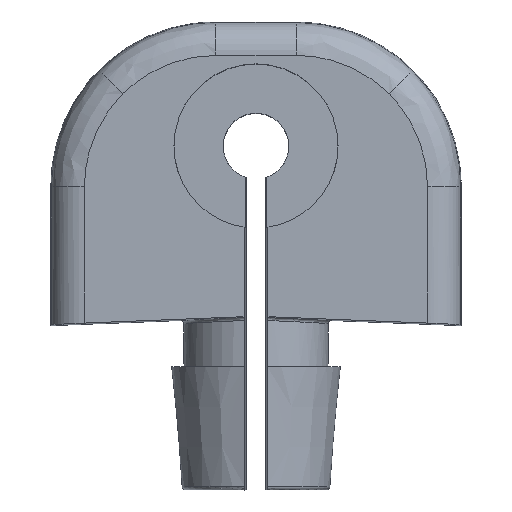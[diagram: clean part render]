
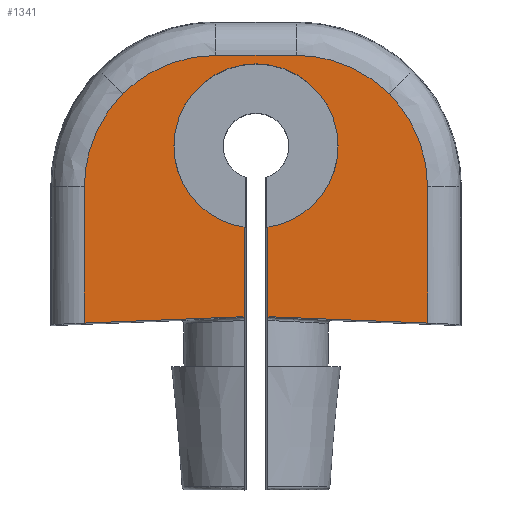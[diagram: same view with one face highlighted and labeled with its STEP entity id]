
A CAD part, top view. The second image highlights one B-rep face of the part: STEP entity #1341.
In plain terms, the highlighted planar face has unit normal (0, 0, 1).
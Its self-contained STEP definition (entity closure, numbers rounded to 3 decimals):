
#31 = ORIENTED_EDGE ( 'NONE', *, *, #212, .T. ) ;
#49 = CARTESIAN_POINT ( 'NONE',  ( 0., 1.685, 7.5 ) ) ;
#64 = CIRCLE ( 'NONE', #608, 5. ) ;
#83 = CARTESIAN_POINT ( 'NONE',  ( 0., 7.202, 7.5 ) ) ;
#97 = EDGE_CURVE ( 'NONE', #1897, #2026, #964, .T. ) ;
#100 = CARTESIAN_POINT ( 'NONE',  ( -4.602, 7.202, 7.5 ) ) ;
#103 = ORIENTED_EDGE ( 'NONE', *, *, #609, .T. ) ;
#108 = CARTESIAN_POINT ( 'NONE',  ( -6.589, 6.379, 7.5 ) ) ;
#132 = CARTESIAN_POINT ( 'NONE',  ( 10.452, 1.352, 7.5 ) ) ;
#136 = CARTESIAN_POINT ( 'NONE',  ( 0., 1.685, 7.5 ) ) ;
#142 = CARTESIAN_POINT ( 'NONE',  ( 10.452, -0.798, 7.5 ) ) ;
#205 = CARTESIAN_POINT ( 'NONE',  ( -9.629, 3.339, 7.5 ) ) ;
#212 = EDGE_CURVE ( 'NONE', #219, #802, #595, .T. ) ;
#219 = VERTEX_POINT ( 'NONE', #1514 ) ;
#269 = DIRECTION ( 'NONE',  ( 1., 0., 0. ) ) ;
#299 = CARTESIAN_POINT ( 'NONE',  ( -5., 1.685, 7.5 ) ) ;
#327 = CARTESIAN_POINT ( 'NONE',  ( -10.452, 0., 7.5 ) ) ;
#345 = DIRECTION ( 'NONE',  ( 0.999, -0.04, 0. ) ) ;
#363 = LINE ( 'NONE', #1107, #1491 ) ;
#387 = CARTESIAN_POINT ( 'NONE',  ( -2.452, 7.202, 7.5 ) ) ;
#393 = ORIENTED_EDGE ( 'NONE', *, *, #97, .T. ) ;
#408 = DIRECTION ( 'NONE',  ( 0., 0., 1. ) ) ;
#415 = CARTESIAN_POINT ( 'NONE',  ( 10.452, -0.798, 7.5 ) ) ;
#423 = VECTOR ( 'NONE', #345, 1000. ) ;
#463 = VERTEX_POINT ( 'NONE', #387 ) ;
#467 = DIRECTION ( 'NONE',  ( 0., 1., 0. ) ) ;
#475 = DIRECTION ( 'NONE',  ( 0., -1., 0. ) ) ;
#511 = ORIENTED_EDGE ( 'NONE', *, *, #737, .T. ) ;
#521 = CARTESIAN_POINT ( 'NONE',  ( -8.109, 4.859, 7.5 ) ) ;
#538 = VERTEX_POINT ( 'NONE', #596 ) ;
#560 = CARTESIAN_POINT ( 'NONE',  ( 0., 0., 7.5 ) ) ;
#568 = EDGE_LOOP ( 'NONE', ( #1749, #820, #1254, #1220, #1251, #723, #393, #1839, #31, #1795, #511, #103, #678, #1993 ) ) ;
#569 =( BOUNDED_CURVE ( )  B_SPLINE_CURVE ( 3, ( #142, #132, #2003, #1057 ),
 .UNSPECIFIED., .F., .F. ) 
 B_SPLINE_CURVE_WITH_KNOTS ( ( 4, 4 ),
 ( 5.498, 6.283 ),
 .UNSPECIFIED. ) 
 CURVE ( )  GEOMETRIC_REPRESENTATION_ITEM ( )  RATIONAL_B_SPLINE_CURVE ( ( 1., 0.949, 0.949, 1. ) ) 
 REPRESENTATION_ITEM ( '' )  );
#572 = CARTESIAN_POINT ( 'NONE',  ( 2.452, 7.202, 7.5 ) ) ;
#585 = CARTESIAN_POINT ( 'NONE',  ( 6.589, 6.379, 7.5 ) ) ;
#595 =( BOUNDED_CURVE ( )  B_SPLINE_CURVE ( 3, ( #1209, #585, #1835, #905 ),
 .UNSPECIFIED., .F., .F. ) 
 B_SPLINE_CURVE_WITH_KNOTS ( ( 4, 4 ),
 ( 0., 0.785 ),
 .UNSPECIFIED. ) 
 CURVE ( )  GEOMETRIC_REPRESENTATION_ITEM ( )  RATIONAL_B_SPLINE_CURVE ( ( 1., 0.949, 0.949, 1. ) ) 
 REPRESENTATION_ITEM ( '' )  );
#596 = CARTESIAN_POINT ( 'NONE',  ( -0.731, -3.262, 7.5 ) ) ;
#608 = AXIS2_PLACEMENT_3D ( 'NONE', #136, #1227, #1384 ) ;
#609 = EDGE_CURVE ( 'NONE', #1649, #725, #1289, .T. ) ;
#632 = CARTESIAN_POINT ( 'NONE',  ( 0.731, -8.714, 7.5 ) ) ;
#652 = AXIS2_PLACEMENT_3D ( 'NONE', #830, #408, #269 ) ;
#678 = ORIENTED_EDGE ( 'NONE', *, *, #1537, .T. ) ;
#691 = CARTESIAN_POINT ( 'NONE',  ( -0.731, -8.714, 7.5 ) ) ;
#692 = LINE ( 'NONE', #1044, #1829 ) ;
#703 = DIRECTION ( 'NONE',  ( 0., -1., 0. ) ) ;
#723 = ORIENTED_EDGE ( 'NONE', *, *, #1889, .T. ) ;
#725 = VERTEX_POINT ( 'NONE', #836 ) ;
#729 = CARTESIAN_POINT ( 'NONE',  ( -0.731, 0., 7.5 ) ) ;
#737 = EDGE_CURVE ( 'NONE', #463, #1649, #1682, .T. ) ;
#802 = VERTEX_POINT ( 'NONE', #572 ) ;
#816 = CARTESIAN_POINT ( 'NONE',  ( -0.347, -8.671, 7.5 ) ) ;
#820 = ORIENTED_EDGE ( 'NONE', *, *, #1711, .F. ) ;
#830 = CARTESIAN_POINT ( 'NONE',  ( 0., 1.685, 7.5 ) ) ;
#836 = CARTESIAN_POINT ( 'NONE',  ( -10.452, -0.798, 7.5 ) ) ;
#875 = VECTOR ( 'NONE', #475, 1000. ) ;
#879 = DIRECTION ( 'NONE',  ( 0., 0., -1. ) ) ;
#905 = CARTESIAN_POINT ( 'NONE',  ( 2.452, 7.202, 7.5 ) ) ;
#940 = EDGE_CURVE ( 'NONE', #1553, #969, #363, .T. ) ;
#964 = LINE ( 'NONE', #1772, #1763 ) ;
#969 = VERTEX_POINT ( 'NONE', #1884 ) ;
#990 = DIRECTION ( 'NONE',  ( 0., 0., 1. ) ) ;
#1034 = DIRECTION ( 'NONE',  ( -1., 0., 0. ) ) ;
#1044 = CARTESIAN_POINT ( 'NONE',  ( 0.347, -8.671, 7.5 ) ) ;
#1057 = CARTESIAN_POINT ( 'NONE',  ( 8.109, 4.859, 7.5 ) ) ;
#1074 = CIRCLE ( 'NONE', #652, 5. ) ;
#1076 = CIRCLE ( 'NONE', #1104, 5. ) ;
#1104 = AXIS2_PLACEMENT_3D ( 'NONE', #49, #990, #1624 ) ;
#1107 = CARTESIAN_POINT ( 'NONE',  ( 0.731, 0., 7.5 ) ) ;
#1117 = CARTESIAN_POINT ( 'NONE',  ( -8.109, 4.859, 7.5 ) ) ;
#1131 = CARTESIAN_POINT ( 'NONE',  ( -10.452, -0.798, 7.5 ) ) ;
#1166 = DIRECTION ( 'NONE',  ( -1., 0., 0. ) ) ;
#1178 = AXIS2_PLACEMENT_3D ( 'NONE', #560, #879, #1034 ) ;
#1190 = LINE ( 'NONE', #327, #875 ) ;
#1198 = VERTEX_POINT ( 'NONE', #1596 ) ;
#1209 = CARTESIAN_POINT ( 'NONE',  ( 8.109, 4.859, 7.5 ) ) ;
#1220 = ORIENTED_EDGE ( 'NONE', *, *, #1832, .F. ) ;
#1227 = DIRECTION ( 'NONE',  ( 0., 0., 1. ) ) ;
#1251 = ORIENTED_EDGE ( 'NONE', *, *, #940, .F. ) ;
#1254 = ORIENTED_EDGE ( 'NONE', *, *, #1578, .F. ) ;
#1265 = CARTESIAN_POINT ( 'NONE',  ( -10.452, 1.352, 7.5 ) ) ;
#1289 =( BOUNDED_CURVE ( )  B_SPLINE_CURVE ( 3, ( #1117, #205, #1265, #1131 ),
 .UNSPECIFIED., .F., .T. ) 
 B_SPLINE_CURVE_WITH_KNOTS ( ( 4, 4 ),
 ( 0., 0.785 ),
 .UNSPECIFIED. ) 
 CURVE ( )  GEOMETRIC_REPRESENTATION_ITEM ( )  RATIONAL_B_SPLINE_CURVE ( ( 1., 0.949, 0.949, 1. ) ) 
 REPRESENTATION_ITEM ( '' )  );
#1320 = EDGE_CURVE ( 'NONE', #1198, #1603, #692, .T. ) ;
#1328 = DIRECTION ( 'NONE',  ( 0.999, 0.04, 0. ) ) ;
#1334 = CARTESIAN_POINT ( 'NONE',  ( -8.109, 4.859, 7.5 ) ) ;
#1341 = ADVANCED_FACE ( 'NONE', ( #1885 ), #1976, .F. ) ;
#1384 = DIRECTION ( 'NONE',  ( 1., 0., 0. ) ) ;
#1442 = CARTESIAN_POINT ( 'NONE',  ( 10.452, -9.103, 7.5 ) ) ;
#1478 = VERTEX_POINT ( 'NONE', #299 ) ;
#1491 = VECTOR ( 'NONE', #467, 1000. ) ;
#1514 = CARTESIAN_POINT ( 'NONE',  ( 8.109, 4.859, 7.5 ) ) ;
#1537 = EDGE_CURVE ( 'NONE', #725, #1198, #1190, .T. ) ;
#1553 = VERTEX_POINT ( 'NONE', #632 ) ;
#1558 = VECTOR ( 'NONE', #703, 1000. ) ;
#1578 = EDGE_CURVE ( 'NONE', #1738, #1478, #1076, .T. ) ;
#1589 = LINE ( 'NONE', #729, #1558 ) ;
#1596 = CARTESIAN_POINT ( 'NONE',  ( -10.452, -9.103, 7.5 ) ) ;
#1603 = VERTEX_POINT ( 'NONE', #691 ) ;
#1621 = CARTESIAN_POINT ( 'NONE',  ( -2.452, 7.202, 7.5 ) ) ;
#1624 = DIRECTION ( 'NONE',  ( 1., 0., 0. ) ) ;
#1649 = VERTEX_POINT ( 'NONE', #521 ) ;
#1682 =( BOUNDED_CURVE ( )  B_SPLINE_CURVE ( 3, ( #1621, #100, #108, #1334 ),
 .UNSPECIFIED., .F., .T. ) 
 B_SPLINE_CURVE_WITH_KNOTS ( ( 4, 4 ),
 ( 5.498, 6.283 ),
 .UNSPECIFIED. ) 
 CURVE ( )  GEOMETRIC_REPRESENTATION_ITEM ( )  RATIONAL_B_SPLINE_CURVE ( ( 1., 0.949, 0.949, 1. ) ) 
 REPRESENTATION_ITEM ( '' )  );
#1698 = EDGE_CURVE ( 'NONE', #802, #463, #1798, .T. ) ;
#1711 = EDGE_CURVE ( 'NONE', #1478, #538, #64, .T. ) ;
#1738 = VERTEX_POINT ( 'NONE', #2027 ) ;
#1749 = ORIENTED_EDGE ( 'NONE', *, *, #1961, .F. ) ;
#1750 = LINE ( 'NONE', #816, #423 ) ;
#1763 = VECTOR ( 'NONE', #1954, 1000. ) ;
#1772 = CARTESIAN_POINT ( 'NONE',  ( 10.452, 0., 7.5 ) ) ;
#1795 = ORIENTED_EDGE ( 'NONE', *, *, #1698, .T. ) ;
#1798 = LINE ( 'NONE', #83, #1874 ) ;
#1829 = VECTOR ( 'NONE', #1328, 1000. ) ;
#1832 = EDGE_CURVE ( 'NONE', #969, #1738, #1074, .T. ) ;
#1835 = CARTESIAN_POINT ( 'NONE',  ( 4.602, 7.202, 7.5 ) ) ;
#1839 = ORIENTED_EDGE ( 'NONE', *, *, #1983, .T. ) ;
#1874 = VECTOR ( 'NONE', #1166, 1000. ) ;
#1884 = CARTESIAN_POINT ( 'NONE',  ( 0.731, -3.262, 7.5 ) ) ;
#1885 = FACE_OUTER_BOUND ( 'NONE', #568, .T. ) ;
#1889 = EDGE_CURVE ( 'NONE', #1553, #1897, #1750, .T. ) ;
#1897 = VERTEX_POINT ( 'NONE', #1442 ) ;
#1954 = DIRECTION ( 'NONE',  ( 0., 1., 0. ) ) ;
#1961 = EDGE_CURVE ( 'NONE', #538, #1603, #1589, .T. ) ;
#1976 = PLANE ( 'NONE',  #1178 ) ;
#1983 = EDGE_CURVE ( 'NONE', #2026, #219, #569, .T. ) ;
#1993 = ORIENTED_EDGE ( 'NONE', *, *, #1320, .T. ) ;
#2003 = CARTESIAN_POINT ( 'NONE',  ( 9.629, 3.339, 7.5 ) ) ;
#2026 = VERTEX_POINT ( 'NONE', #415 ) ;
#2027 = CARTESIAN_POINT ( 'NONE',  ( 5., 1.685, 7.5 ) ) ;
